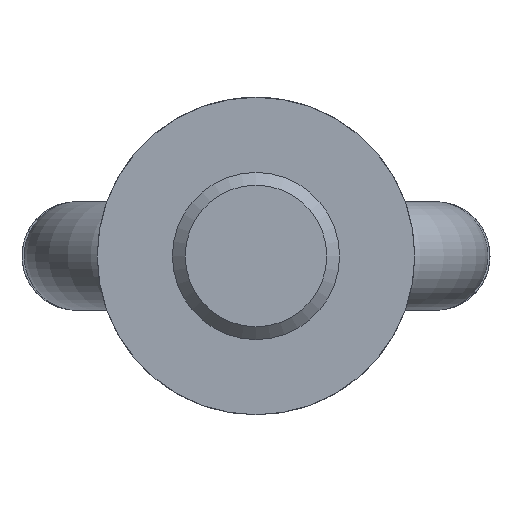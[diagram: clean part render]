
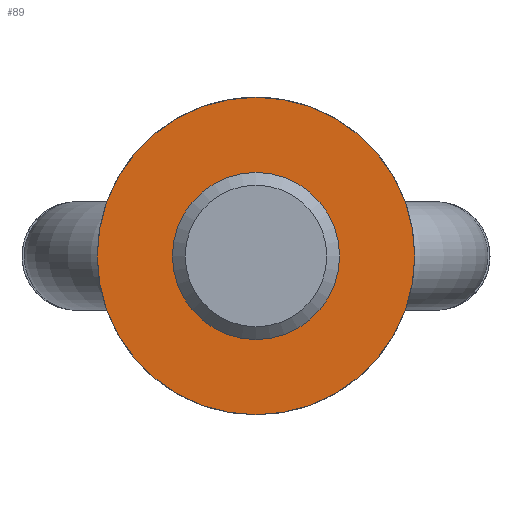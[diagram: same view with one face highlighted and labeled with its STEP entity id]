
A CAD part, front view. The second image highlights one B-rep face of the part: STEP entity #89.
In plain terms, the highlighted planar face has unit normal (0, -1, 0).
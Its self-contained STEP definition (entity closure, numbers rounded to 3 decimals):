
#89 = ADVANCED_FACE( '', ( #137, #138 ), #139, .F. );
#137 = FACE_BOUND( '', #205, .T. );
#138 = FACE_OUTER_BOUND( '', #206, .T. );
#139 = PLANE( '', #207 );
#205 = EDGE_LOOP( '', ( #349 ) );
#206 = EDGE_LOOP( '', ( #350 ) );
#207 = AXIS2_PLACEMENT_3D( '', #351, #352, #353 );
#349 = ORIENTED_EDGE( '', *, *, #454, .T. );
#350 = ORIENTED_EDGE( '', *, *, #438, .T. );
#351 = CARTESIAN_POINT( '', ( 19., 0., 0. ) );
#352 = DIRECTION( '', ( 0., 1., 0. ) );
#353 = DIRECTION( '', ( 0., 0., 1. ) );
#438 = EDGE_CURVE( '', #504, #504, #505, .T. );
#454 = EDGE_CURVE( '', #528, #528, #529, .T. );
#504 = VERTEX_POINT( '', #956 );
#505 = CIRCLE( '', #957, 19. );
#528 = VERTEX_POINT( '', #998 );
#529 = CIRCLE( '', #999, 10. );
#956 = CARTESIAN_POINT( '', ( 0., 0., -19. ) );
#957 = AXIS2_PLACEMENT_3D( '', #1048, #1049, #1050 );
#998 = CARTESIAN_POINT( '', ( 0., 0., 10. ) );
#999 = AXIS2_PLACEMENT_3D( '', #1069, #1070, #1071 );
#1048 = CARTESIAN_POINT( '', ( 0., 0., 0. ) );
#1049 = DIRECTION( '', ( 0., -1., 0. ) );
#1050 = DIRECTION( '', ( 0., 0., -1. ) );
#1069 = CARTESIAN_POINT( '', ( 0., 0., 0. ) );
#1070 = DIRECTION( '', ( 0., 1., 0. ) );
#1071 = DIRECTION( '', ( 0., 0., 1. ) );
